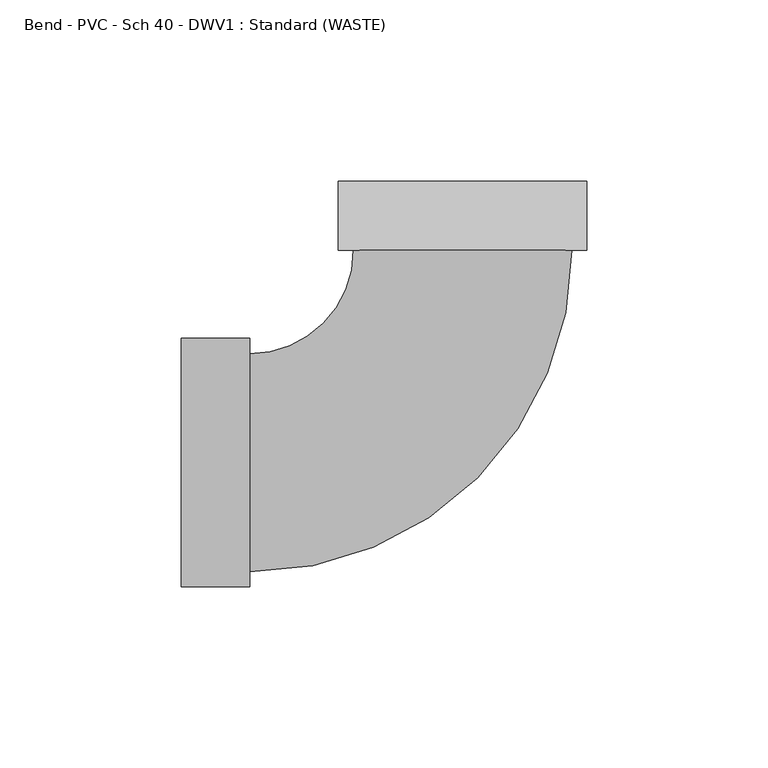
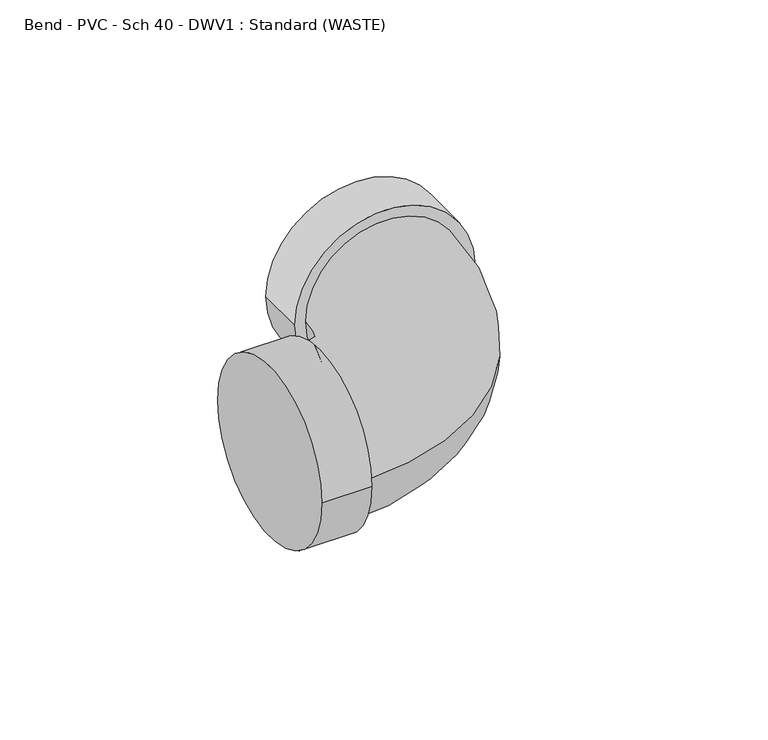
"""IFC4 building model written with IfcOpenShell, lengths in millimetres: pipe fitting geometry, Bend - PVC - Sch 40 - DWV1 : Standard (WASTE)."""

from ifc_helpers import new_model, si_unit, point, frame, origin, place, context, project, spatial, circle_curve, ellipse_curve, trimmed, source, transform, mapped, element, save
from ifc_brep_helpers import plane_surface, cylinder_surface, revolved_surface, advanced_brep


def bend_pvc_sch_40_dwv1_standard_waste_1c560996(model_context):
    return source(origin(), model_context, "Body", "AdvancedBrep", [
        advanced_brep(
        [(-77.8002, -34.3154, 0.0), (-77.8002, 34.3154, 0.0), (-58.7502, -34.3154, 0.0), (-58.7502, 34.3154, 0.0), (-58.7502, -30.1625, 0.0), (-58.7502, 30.1625, 0.0), (-30.1625, 58.7502, 0.0), (30.1625, 58.7502, 0.0), (34.3154, 58.7502, 0.0), (-34.3154, 58.7502, 0.0), (34.3154, 77.8002, 0.0), (-34.3154, 77.8002, 0.0)],
        [
            (0, 1, circle_curve(frame((-77.8002, 0.0, 0.0), z_axis=(-1.0, 0.0, 0.0), x_axis=(0.0, 1.0, 0.0)), 34.3154)),
            (1, 0, circle_curve(frame((-77.8002, 0.0, 0.0), z_axis=(-1.0, 0.0, 0.0), x_axis=(0.0, 1.0, 0.0)), 34.3154)),
            (2, 3, circle_curve(frame((-58.7502, 0.0, 0.0), z_axis=(1.0, 0.0, 0.0), x_axis=(0.0, 1.0, 0.0)), 34.3154)),
            (3, 2, circle_curve(frame((-58.7502, 0.0, 0.0), z_axis=(1.0, 0.0, 0.0), x_axis=(0.0, 1.0, 0.0)), 34.3154)),
            (4, 5, circle_curve(frame((-58.7502, 0.0, 0.0), z_axis=(-1.0, 0.0, 0.0), x_axis=(0.0, 1.0, 0.0)), 30.1625)),
            (5, 4, circle_curve(frame((-58.7502, 0.0, 0.0), z_axis=(-1.0, 0.0, 0.0), x_axis=(0.0, 1.0, 0.0)), 30.1625)),
            (0, 2),
            (3, 1),
            (6, 5, circle_curve(frame((-58.7502, 58.7502, 0.0), z_axis=(0.0, 0.0, -1.0), x_axis=(0.0, -1.0, 0.0)), 28.5877)),
            (4, 7, circle_curve(frame((-58.7502, 58.7502, 0.0), z_axis=(0.0, 0.0, 1.0), x_axis=(0.0, -1.0, 0.0)), 88.9127)),
            (7, 6, circle_curve(frame((0.0, 58.7502, 0.0), z_axis=(0.0, -1.0, 0.0), x_axis=(-1.0, 0.0, 0.0)), 30.1625)),
            (6, 7, circle_curve(frame((0.0, 58.7502, 0.0), z_axis=(0.0, -1.0, 0.0), x_axis=(-1.0, 0.0, 0.0)), 30.1625)),
            (8, 9, circle_curve(frame((0.0, 58.7502, 0.0), z_axis=(0.0, -1.0, 0.0), x_axis=(-1.0, 0.0, 0.0)), 34.3154)),
            (9, 8, circle_curve(frame((0.0, 58.7502, 0.0), z_axis=(0.0, -1.0, 0.0), x_axis=(-1.0, 0.0, 0.0)), 34.3154)),
            (10, 11, circle_curve(frame((0.0, 77.8002, 0.0), z_axis=(0.0, 1.0, 0.0), x_axis=(-1.0, 0.0, 0.0)), 34.3154)),
            (11, 10, circle_curve(frame((0.0, 77.8002, 0.0), z_axis=(0.0, 1.0, 0.0), x_axis=(-1.0, 0.0, 0.0)), 34.3154)),
            (8, 10),
            (11, 9),
        ],
        [
            plane_surface(frame((-77.8002, 0.0, 0.0), z_axis=(-1.0, 0.0, 0.0), x_axis=(0.0, 0.0, 1.0))),
            plane_surface(frame((-58.7502, 0.0, 0.0), z_axis=(1.0, 0.0, 0.0), x_axis=(0.0, 0.0, 1.0))),
            cylinder_surface(frame((-77.8002, 0.0, 0.0), z_axis=(-1.0, 0.0, 0.0), x_axis=(0.0, 1.0, 0.0)), 34.3154),
            revolved_surface(trimmed(ellipse_curve(frame((-58.7502, 0.0, 0.0), z_axis=(-1.0, 0.0, 0.0), x_axis=(0.0, 1.0, 0.0)), 30.1625, 30.1625), [point((-58.7502, -30.1625, 0.0))], [point((-58.7502, 30.1625, 0.0))], True, "CARTESIAN"), (-58.7502, 58.7502, 0.0), (0.0, 0.0, 1.0)),
            revolved_surface(trimmed(ellipse_curve(frame((-58.7502, 0.0, 0.0), z_axis=(-1.0, 0.0, 0.0), x_axis=(0.0, 1.0, 0.0)), 30.1625, 30.1625), [point((-58.7502, 30.1625, 0.0))], [point((-58.7502, -30.1625, 0.0))], True, "CARTESIAN"), (-58.7502, 58.7502, 0.0), (0.0, 0.0, 1.0)),
            plane_surface(frame((0.0, 58.7502, 0.0), z_axis=(0.0, -1.0, 0.0), x_axis=(0.0, 0.0, 1.0))),
            plane_surface(frame((0.0, 77.8002, 0.0), z_axis=(0.0, 1.0, 0.0), x_axis=(0.0, 0.0, 1.0))),
            cylinder_surface(frame((0.0, 58.7502, 0.0), z_axis=(0.0, -1.0, 0.0), x_axis=(-1.0, 0.0, 0.0)), 34.3154),
        ],
        [
            (0, [[1, 2]]),
            (1, [[3, 4], [5, 6]]),
            (2, [[-1, 7, -4, 8]]),
            (2, [[-2, -8, -3, -7]]),
            (3, [[9, -5, 10, 11]]),
            (4, [[-9, 12, -10, -6]]),
            (5, [[13, 14], [-11, -12]]),
            (6, [[15, 16]]),
            (7, [[-13, 17, -16, 18]]),
            (7, [[-14, -18, -15, -17]]),
        ],
    ),
        advanced_brep(
        [(-77.8002, -34.3154, 0.0), (-77.8002, 34.3154, 0.0), (-58.7502, -34.3154, 0.0), (-58.7502, 34.3154, 0.0), (-58.7502, -30.1625, 0.0), (-58.7502, 30.1625, 0.0), (-34.3154, 77.8002, 0.0), (34.3154, 77.8002, 0.0), (-34.3154, 58.7502, 0.0), (34.3154, 58.7502, 0.0), (-30.1625, 58.7502, 0.0), (30.1625, 58.7502, 0.0)],
        [
            (0, 1, circle_curve(frame((-77.8002, 0.0, 0.0), z_axis=(-1.0, 0.0, 0.0), x_axis=(0.0, 1.0, 0.0)), 34.3154)),
            (1, 0, circle_curve(frame((-77.8002, 0.0, 0.0), z_axis=(-1.0, 0.0, 0.0), x_axis=(0.0, 1.0, 0.0)), 34.3154)),
            (2, 3, circle_curve(frame((-58.7502, 0.0, 0.0), z_axis=(1.0, 0.0, 0.0), x_axis=(0.0, 1.0, 0.0)), 34.3154)),
            (3, 2, circle_curve(frame((-58.7502, 0.0, 0.0), z_axis=(1.0, 0.0, 0.0), x_axis=(0.0, 1.0, 0.0)), 34.3154)),
            (4, 5, circle_curve(frame((-58.7502, 0.0, 0.0), z_axis=(-1.0, 0.0, 0.0), x_axis=(0.0, 1.0, 0.0)), 30.1625)),
            (5, 4, circle_curve(frame((-58.7502, 0.0, 0.0), z_axis=(-1.0, 0.0, 0.0), x_axis=(0.0, 1.0, 0.0)), 30.1625)),
            (0, 2),
            (3, 1),
            (6, 7, circle_curve(frame((0.0, 77.8002, 0.0), z_axis=(0.0, 1.0, 0.0), x_axis=(1.0, 0.0, 0.0)), 34.3154)),
            (7, 6, circle_curve(frame((0.0, 77.8002, 0.0), z_axis=(0.0, 1.0, 0.0), x_axis=(1.0, 0.0, 0.0)), 34.3154)),
            (8, 9, circle_curve(frame((0.0, 58.7502, 0.0), z_axis=(0.0, -1.0, 0.0), x_axis=(1.0, 0.0, 0.0)), 34.3154)),
            (9, 8, circle_curve(frame((0.0, 58.7502, 0.0), z_axis=(0.0, -1.0, 0.0), x_axis=(1.0, 0.0, 0.0)), 34.3154)),
            (10, 11, circle_curve(frame((0.0, 58.7502, 0.0), z_axis=(0.0, 1.0, 0.0), x_axis=(-1.0, 0.0, 0.0)), 30.1625)),
            (11, 10, circle_curve(frame((0.0, 58.7502, 0.0), z_axis=(0.0, 1.0, 0.0), x_axis=(-1.0, 0.0, 0.0)), 30.1625)),
            (6, 8),
            (9, 7),
            (10, 5, circle_curve(frame((-58.7502, 58.7502, 0.0), z_axis=(0.0, 0.0, -1.0), x_axis=(0.0, -1.0, 0.0)), 28.5877)),
            (4, 11, circle_curve(frame((-58.7502, 58.7502, 0.0), z_axis=(0.0, 0.0, 1.0), x_axis=(0.0, -1.0, 0.0)), 88.9127)),
        ],
        [
            plane_surface(frame((-77.8002, 0.0, 0.0), z_axis=(-1.0, 0.0, 0.0), x_axis=(0.0, 0.0, 1.0))),
            plane_surface(frame((-58.7502, 0.0, 0.0), z_axis=(1.0, 0.0, 0.0), x_axis=(0.0, 0.0, 1.0))),
            cylinder_surface(frame((-77.8002, 0.0, 0.0), z_axis=(-1.0, 0.0, 0.0), x_axis=(0.0, 1.0, 0.0)), 34.3154),
            plane_surface(frame((0.0, 77.8002, 0.0), z_axis=(0.0, 1.0, 0.0), x_axis=(0.0, 0.0, 1.0))),
            plane_surface(frame((0.0, 58.7502, 0.0), z_axis=(0.0, -1.0, 0.0), x_axis=(0.0, 0.0, 1.0))),
            cylinder_surface(frame((0.0, 77.8002, 0.0), z_axis=(0.0, 1.0, 0.0), x_axis=(1.0, 0.0, 0.0)), 34.3154),
            revolved_surface(trimmed(ellipse_curve(frame((-58.7502, 0.0, 0.0), z_axis=(-1.0, 0.0, 0.0), x_axis=(0.0, 1.0, 0.0)), 30.1625, 30.1625), [point((-58.7502, -30.1625, 0.0))], [point((-58.7502, 30.1625, 0.0))], True, "CARTESIAN"), (-58.7502, 58.7502, 0.0), (0.0, 0.0, 1.0)),
            revolved_surface(trimmed(ellipse_curve(frame((-58.7502, 0.0, 0.0), z_axis=(-1.0, 0.0, 0.0), x_axis=(0.0, 1.0, 0.0)), 30.1625, 30.1625), [point((-58.7502, 30.1625, 0.0))], [point((-58.7502, -30.1625, 0.0))], True, "CARTESIAN"), (-58.7502, 58.7502, 0.0), (0.0, 0.0, 1.0)),
        ],
        [
            (0, [[1, 2]]),
            (1, [[3, 4], [5, 6]]),
            (2, [[-1, 7, -4, 8]]),
            (2, [[-2, -8, -3, -7]]),
            (3, [[9, 10]]),
            (4, [[11, 12], [13, 14]]),
            (5, [[-9, 15, -12, 16]]),
            (5, [[-10, -16, -11, -15]]),
            (6, [[17, -5, 18, -13]]),
            (7, [[-17, -14, -18, -6]]),
        ],
    ),
    ])


if __name__ == "__main__":
    model = new_model("IFC4")
    model_context = context("Model", 3, world=origin())
    ifc_project = project(units=[si_unit("LENGTHUNIT", "METRE", prefix="MILLI")], contexts=[model_context])
    site = spatial("IfcSite", under=ifc_project)
    building = spatial("IfcBuilding", under=site)
    placement = place(None, origin())
    bend_pvc_sch_40_dwv1_standard_waste_shape = bend_pvc_sch_40_dwv1_standard_waste_1c560996(model_context)
    element("IfcPipeFitting", 1, ObjectType="Bend - PVC - Sch 40 - DWV1 : Standard (WASTE)", at=placement, inside=building, context=model_context, shape_type="MappedRepresentation", body=[
        mapped(bend_pvc_sch_40_dwv1_standard_waste_shape, transform((0.0, 0.0, 0.0), x_axis=(1.0, 0.0, 0.0), y_axis=(0.0, 1.0, 0.0), z_axis=(0.0, 0.0, 1.0))),
    ])
    save(model, "model.ifc")
